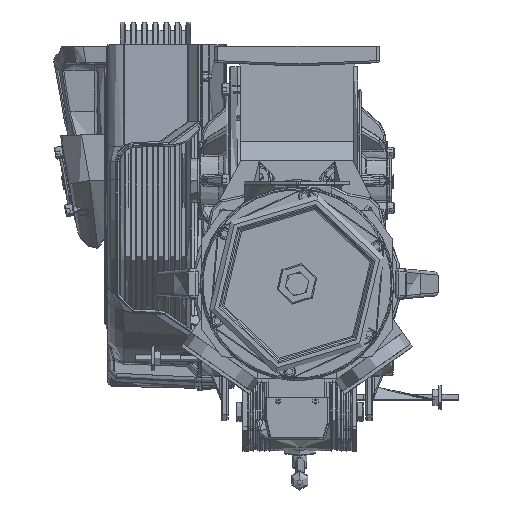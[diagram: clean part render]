
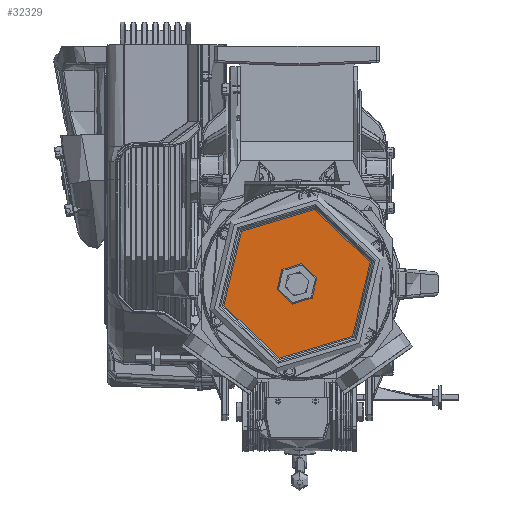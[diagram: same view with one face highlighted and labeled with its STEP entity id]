
A CAD part, front view. The second image highlights one B-rep face of the part: STEP entity #32329.
In plain terms, the highlighted planar face has unit normal (0, -1, 0).
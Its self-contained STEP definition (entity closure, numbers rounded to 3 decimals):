
#1453 = FACE_OUTER_BOUND ( 'NONE', #153047, .T. ) ;
#3775 = AXIS2_PLACEMENT_3D ( 'NONE', #196303, #89896, #118119 ) ;
#32329 = ADVANCED_FACE ( 'NONE', ( #1453, #149511 ), #199416, .T. ) ;
#36289 = DIRECTION ( 'NONE',  ( 0., -1., 0. ) ) ;
#44502 = EDGE_CURVE ( 'NONE', #288665, #72888, #178960, .T. ) ;
#47685 = CARTESIAN_POINT ( 'NONE',  ( 296.592, -713.753, -120.661 ) ) ;
#51316 = DIRECTION ( 'NONE',  ( -0.231, 0., -0.973 ) ) ;
#72888 = VERTEX_POINT ( 'NONE', #47685 ) ;
#82837 = DIRECTION ( 'NONE',  ( -0.231, 0., -0.973 ) ) ;
#89896 = DIRECTION ( 'NONE',  ( 0., -1., 0. ) ) ;
#97691 = AXIS2_PLACEMENT_3D ( 'NONE', #186452, #211465, #261361 ) ;
#108240 = AXIS2_PLACEMENT_3D ( 'NONE', #179388, #327486, #51316 ) ;
#113599 = CIRCLE ( 'NONE', #97691, 30.156 ) ;
#118119 = DIRECTION ( 'NONE',  ( -0.231, 0., -0.973 ) ) ;
#138530 = CARTESIAN_POINT ( 'NONE',  ( 264.001, -713.753, -257.754 ) ) ;
#149511 = FACE_BOUND ( 'NONE', #165221, .T. ) ;
#153047 = EDGE_LOOP ( 'NONE', ( #250260, #228855 ) ) ;
#154973 = CARTESIAN_POINT ( 'NONE',  ( 289.617, -713.753, -150. ) ) ;
#157813 = ORIENTED_EDGE ( 'NONE', *, *, #266956, .F. ) ;
#160570 = CARTESIAN_POINT ( 'NONE',  ( 315.233, -713.753, -42.246 ) ) ;
#161993 = AXIS2_PLACEMENT_3D ( 'NONE', #154973, #199997, #206575 ) ;
#165221 = EDGE_LOOP ( 'NONE', ( #157813, #214883 ) ) ;
#178960 = CIRCLE ( 'NONE', #3775, 30.156 ) ;
#179388 = CARTESIAN_POINT ( 'NONE',  ( 398.58, -713.753, -175.904 ) ) ;
#183815 = CARTESIAN_POINT ( 'NONE',  ( 282.642, -713.753, -179.339 ) ) ;
#186452 = CARTESIAN_POINT ( 'NONE',  ( 289.617, -713.753, -150. ) ) ;
#196303 = CARTESIAN_POINT ( 'NONE',  ( 289.617, -713.753, -150. ) ) ;
#199416 = PLANE ( 'NONE',  #108240 ) ;
#199997 = DIRECTION ( 'NONE',  ( 0., -1., 0. ) ) ;
#206575 = DIRECTION ( 'NONE',  ( -0.231, 0., -0.973 ) ) ;
#209310 = CARTESIAN_POINT ( 'NONE',  ( 289.617, -713.753, -150. ) ) ;
#211465 = DIRECTION ( 'NONE',  ( 0., -1., 0. ) ) ;
#214883 = ORIENTED_EDGE ( 'NONE', *, *, #44502, .F. ) ;
#228855 = ORIENTED_EDGE ( 'NONE', *, *, #303565, .T. ) ;
#239488 = VERTEX_POINT ( 'NONE', #138530 ) ;
#249155 = CIRCLE ( 'NONE', #275741, 110.757 ) ;
#250260 = ORIENTED_EDGE ( 'NONE', *, *, #325204, .T. ) ;
#261361 = DIRECTION ( 'NONE',  ( -0.231, 0., -0.973 ) ) ;
#266956 = EDGE_CURVE ( 'NONE', #72888, #288665, #113599, .T. ) ;
#275741 = AXIS2_PLACEMENT_3D ( 'NONE', #209310, #36289, #82837 ) ;
#288665 = VERTEX_POINT ( 'NONE', #183815 ) ;
#300142 = CIRCLE ( 'NONE', #161993, 110.757 ) ;
#303565 = EDGE_CURVE ( 'NONE', #319152, #239488, #249155, .T. ) ;
#319152 = VERTEX_POINT ( 'NONE', #160570 ) ;
#325204 = EDGE_CURVE ( 'NONE', #239488, #319152, #300142, .T. ) ;
#327486 = DIRECTION ( 'NONE',  ( 0., -1., 0. ) ) ;
